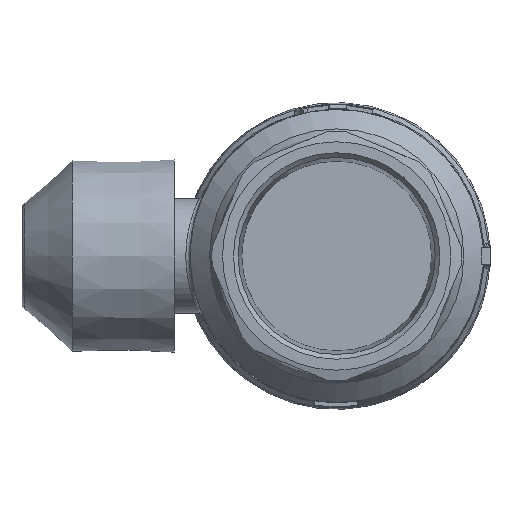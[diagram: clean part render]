
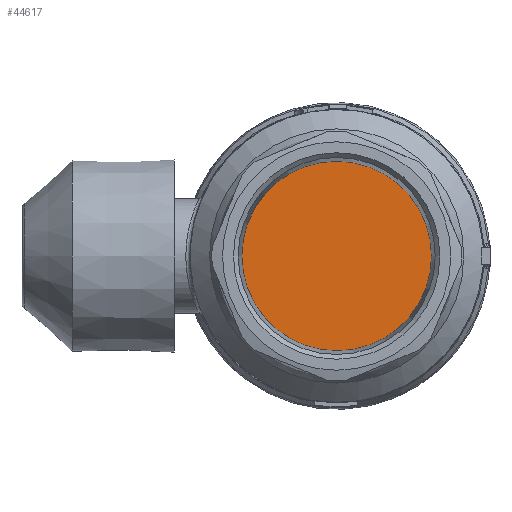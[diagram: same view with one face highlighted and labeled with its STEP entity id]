
A CAD part, left-side view. The second image highlights one B-rep face of the part: STEP entity #44617.
In plain terms, the highlighted planar face has unit normal (-1, 0, 0).
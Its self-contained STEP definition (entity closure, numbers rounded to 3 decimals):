
#44594=CARTESIAN_POINT('',(-68.23,-22.425,0.0));
#44595=VERTEX_POINT('',#44594);
#44596=CARTESIAN_POINT('',(-68.23,0.0,0.0));
#44597=DIRECTION('',(-1.0,0.0,0.0));
#44598=DIRECTION('',(0.0,-1.0,0.0));
#44599=AXIS2_PLACEMENT_3D('',#44596,#44597,#44598);
#44600=CIRCLE('',#44599,22.425);
#44601=EDGE_CURVE('',#44595,#44595,#44600,.T.);
#44609=CARTESIAN_POINT('',(-68.23,-11.213,0.0));
#44610=DIRECTION('',(-1.0,0.0,0.0));
#44611=DIRECTION('',(0.0,0.0,1.0));
#44612=AXIS2_PLACEMENT_3D('',#44609,#44610,#44611);
#44613=PLANE('',#44612);
#44614=ORIENTED_EDGE('',*,*,#44601,.T.);
#44615=EDGE_LOOP('',(#44614));
#44616=FACE_OUTER_BOUND('',#44615,.T.);
#44617=ADVANCED_FACE('',(#44616),#44613,.T.);
